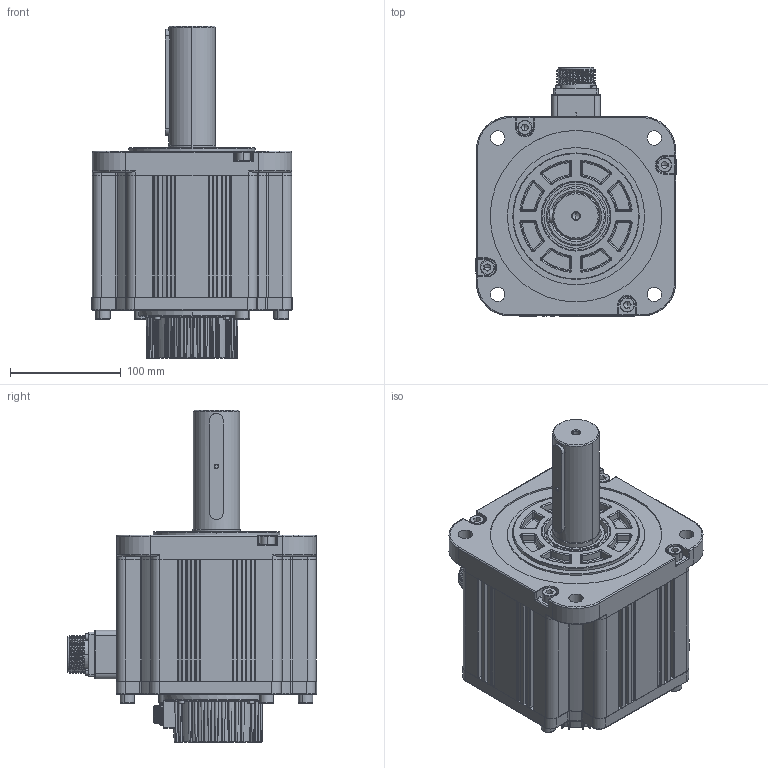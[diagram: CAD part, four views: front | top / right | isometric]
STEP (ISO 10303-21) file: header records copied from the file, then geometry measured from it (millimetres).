
FILE_DESCRIPTION (( 'STEP AP214' ), '1' );
FILE_NAME ('V7E-M18D-2R815-D1BH.STEP', '2021-08-10T03:46:51', ( '' ), ( '' ), 'SwSTEP 2.0', 'SolidWorks 2014', '' );
FILE_SCHEMA (( 'AUTOMOTIVE_DESIGN' ));
Length unit declared in the file: millimetre
Products named in the file (16): 埴芛囀鞠褒 ISO 4762 M3 x 10 --- 10N; す瑩^180#陔萇儂-拸价陬 201021; 180粣-47沺郋; 180#綴傷裔; V7E-M18D-2R815-D1BH; SCCMS3102A22-22P-Z; SC180ヶ傷裔1009; SC蚐猾 D00B999YF8-TC 44-62-10; 埴芛囀鞠褒 ISO 4762 M3 x 30 --- 18N; SC180瑤脣釱1015; 坋趼攫芛蹟佪 M2X8-8  H type-N; SC180儂褲1009; SCSC瑤諾脣芛 16M-9H; 180#陔隅赽201019; 埴芛囀鞠褒 ISO 4762 M8 x 30 --- 30N; SC晤鎢ん欶200908_10郋
Assembly tree (31 placements, depth 3):
  V7E-M18D-2R815-D1BH
    180#陔隅赽201019
      SC180儂褲1009
      SC180ヶ傷裔1009
      SCCMS3102A22-22P-Z
      SC180瑤脣釱1015
    SC晤鎢ん欶200908_10郋
    SCSC瑤諾脣芛 16M-9H
    SC蚐猾 D00B999YF8-TC 44-62-10
    坋趼攫芛蹟佪 M2X8-8  H type-N  x4
    埴芛囀鞠褒 ISO 4762 M3 x 10 --- 10N  x4
    埴芛囀鞠褒 ISO 4762 M8 x 30 --- 30N  x8
    埴芛囀鞠褒 ISO 4762 M3 x 30 --- 18N  x4
    180粣-47沺郋
    180#綴傷裔
    す瑩^180#陔萇儂-拸价陬 201021
Bounding box: 180.95 x 225.07 x 300 mm (x, y, z)
Volume: 1809397.4 mm3; surface area: 475878.3 mm2
Topology: 30 solids, 30 shells, 3135 faces, 7514 edges, 4341 vertices
Faces by surface type: bspline 1025, cylinder 1021, plane 762, cone 259, torus 64, sphere 4
Entity records: 139274 total; most frequent: CARTESIAN_POINT 54841, ORIENTED_EDGE 12746, DIRECTION 10739, EDGE_CURVE 6373, AXIS2_PLACEMENT_3D 4324, VERTEX_POINT 3786, EDGE_LOOP 2897, FACE_OUTER_BOUND 2712
